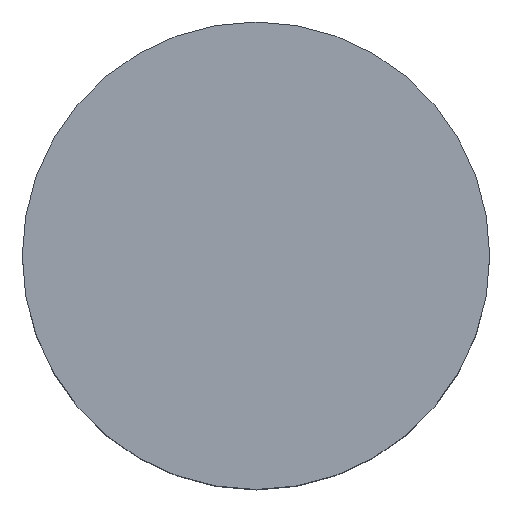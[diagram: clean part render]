
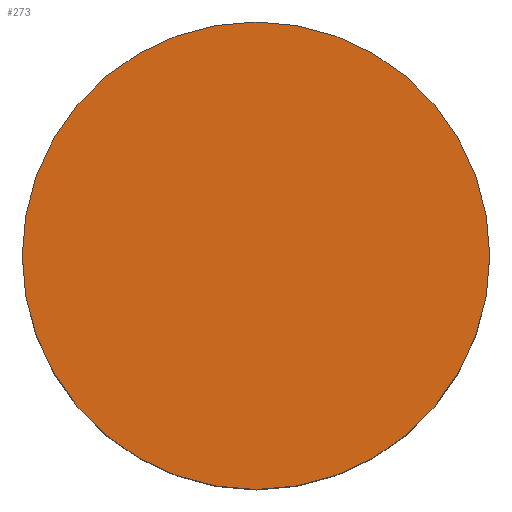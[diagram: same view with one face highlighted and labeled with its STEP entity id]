
A CAD part, top view. The second image highlights one B-rep face of the part: STEP entity #273.
In plain terms, the highlighted planar face has unit normal (0, 0, 1).
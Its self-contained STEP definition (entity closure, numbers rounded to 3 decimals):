
#43=PLANE('',#326);
#65=FACE_OUTER_BOUND('',#96,.T.);
#96=EDGE_LOOP('',(#227));
#137=CIRCLE('',#325,26.);
#161=VERTEX_POINT('',#496);
#187=EDGE_CURVE('',#161,#161,#137,.T.);
#227=ORIENTED_EDGE('',*,*,#187,.T.);
#273=ADVANCED_FACE('',(#65),#43,.T.);
#325=AXIS2_PLACEMENT_3D('',#497,#418,#419);
#326=AXIS2_PLACEMENT_3D('',#498,#420,#421);
#418=DIRECTION('center_axis',(0.,0.,1.));
#419=DIRECTION('ref_axis',(-1.,0.,0.));
#420=DIRECTION('center_axis',(0.,0.,1.));
#421=DIRECTION('ref_axis',(1.,0.,0.));
#496=CARTESIAN_POINT('',(26.,0.,33.));
#497=CARTESIAN_POINT('Origin',(0.,0.,33.));
#498=CARTESIAN_POINT('Origin',(0.,0.,33.));
